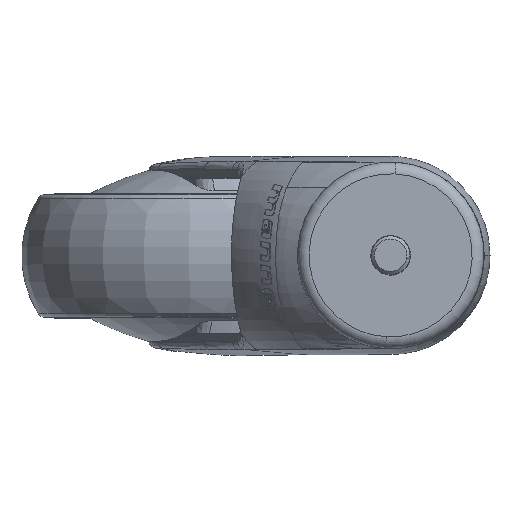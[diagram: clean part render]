
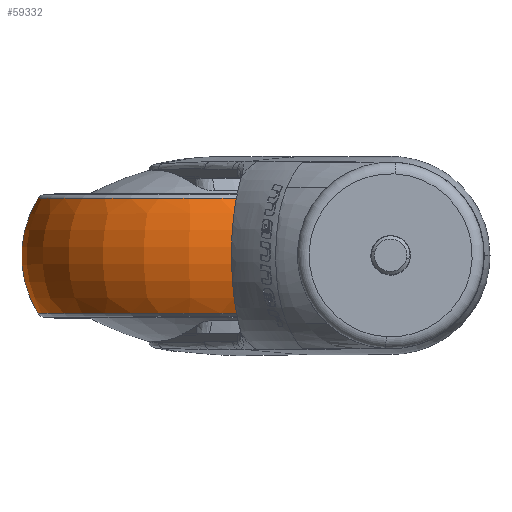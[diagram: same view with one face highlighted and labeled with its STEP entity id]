
A CAD part, top view. The second image highlights one B-rep face of the part: STEP entity #59332.
In plain terms, the highlighted toroidal (fillet/blend) face has major radius 22 mm and minor radius 28 mm.
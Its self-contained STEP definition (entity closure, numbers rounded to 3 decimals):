
#39330 = CARTESIAN_POINT ( 'NONE',  ( -4.929, 14.808, 40.962 ) ) ;
#39331 = CARTESIAN_POINT ( 'NONE',  ( -85.228, 14.808, -2.962 ) ) ;
#39332 = DIRECTION ( 'NONE',  ( -0.877, 0., -0.48 ) ) ;
#39333 = DIRECTION ( 'NONE',  ( 0., 1., 0. ) ) ;
#39334 = CARTESIAN_POINT ( 'NONE',  ( -45.078, 14.808, 19. ) ) ;
#39335 = AXIS2_PLACEMENT_3D ( 'NONE', #39334, #39333, #39332 ) ;
#39336 = CIRCLE ( 'NONE', #39335, 45.764 ) ;
#39394 = CARTESIAN_POINT ( 'NONE',  ( -85.228, -14.808, -2.962 ) ) ;
#39395 = CARTESIAN_POINT ( 'NONE',  ( -4.929, -14.808, 40.962 ) ) ;
#39419 = FACE_OUTER_BOUND ( 'NONE', #59333, .T. ) ;
#39462 = DIRECTION ( 'NONE',  ( -0.877, 0., -0.48 ) ) ;
#39463 = DIRECTION ( 'NONE',  ( 0.48, 0., -0.877 ) ) ;
#39464 = CARTESIAN_POINT ( 'NONE',  ( -64.379, 0., 8.442 ) ) ;
#39465 = AXIS2_PLACEMENT_3D ( 'NONE', #39464, #39463, #39462 ) ;
#39466 = CIRCLE ( 'NONE', #39465, 28. ) ;
#39467 = DIRECTION ( 'NONE',  ( 0.877, 0., 0.48 ) ) ;
#39468 = DIRECTION ( 'NONE',  ( -0.48, 0., 0.877 ) ) ;
#39469 = CARTESIAN_POINT ( 'NONE',  ( -25.777, 0., 29.558 ) ) ;
#39470 = AXIS2_PLACEMENT_3D ( 'NONE', #39469, #39468, #39467 ) ;
#39471 = CIRCLE ( 'NONE', #39470, 28. ) ;
#39472 = DIRECTION ( 'NONE',  ( -0.877, 0., -0.48 ) ) ;
#39473 = DIRECTION ( 'NONE',  ( 0., 1., 0. ) ) ;
#39474 = CARTESIAN_POINT ( 'NONE',  ( -45.078, -14.808, 19. ) ) ;
#39475 = AXIS2_PLACEMENT_3D ( 'NONE', #39474, #39473, #39472 ) ;
#39476 = CIRCLE ( 'NONE', #39475, 45.764 ) ;
#39477 = DIRECTION ( 'NONE',  ( -0.877, 0., -0.48 ) ) ;
#39478 = DIRECTION ( 'NONE',  ( 0., 1., 0. ) ) ;
#39479 = CARTESIAN_POINT ( 'NONE',  ( -45.078, 0., 19. ) ) ;
#39480 = AXIS2_PLACEMENT_3D ( 'NONE', #39479, #39478, #39477 ) ;
#39481 = TOROIDAL_SURFACE ( 'NONE', #39480, 22., 28. ) ;
#59251 = EDGE_CURVE ( 'NONE', #59252, #59253, #39336, .T. ) ;
#59252 = VERTEX_POINT ( 'NONE', #39331 ) ;
#59253 = VERTEX_POINT ( 'NONE', #39330 ) ;
#59287 = VERTEX_POINT ( 'NONE', #39395 ) ;
#59289 = VERTEX_POINT ( 'NONE', #39394 ) ;
#59332 = ADVANCED_FACE ( 'NONE', ( #39419 ), #39481, .T. ) ;
#59333 = EDGE_LOOP ( 'NONE', ( #59334, #59338, #59341, #59342 ) ) ;
#59334 = ORIENTED_EDGE ( 'NONE', *, *, #59335, .T. ) ;
#59335 = EDGE_CURVE ( 'NONE', #59289, #59287, #39476, .T. ) ;
#59338 = ORIENTED_EDGE ( 'NONE', *, *, #59340, .T. ) ;
#59340 = EDGE_CURVE ( 'NONE', #59287, #59253, #39471, .T. ) ;
#59341 = ORIENTED_EDGE ( 'NONE', *, *, #59251, .F. ) ;
#59342 = ORIENTED_EDGE ( 'NONE', *, *, #59343, .F. ) ;
#59343 = EDGE_CURVE ( 'NONE', #59289, #59252, #39466, .T. ) ;
